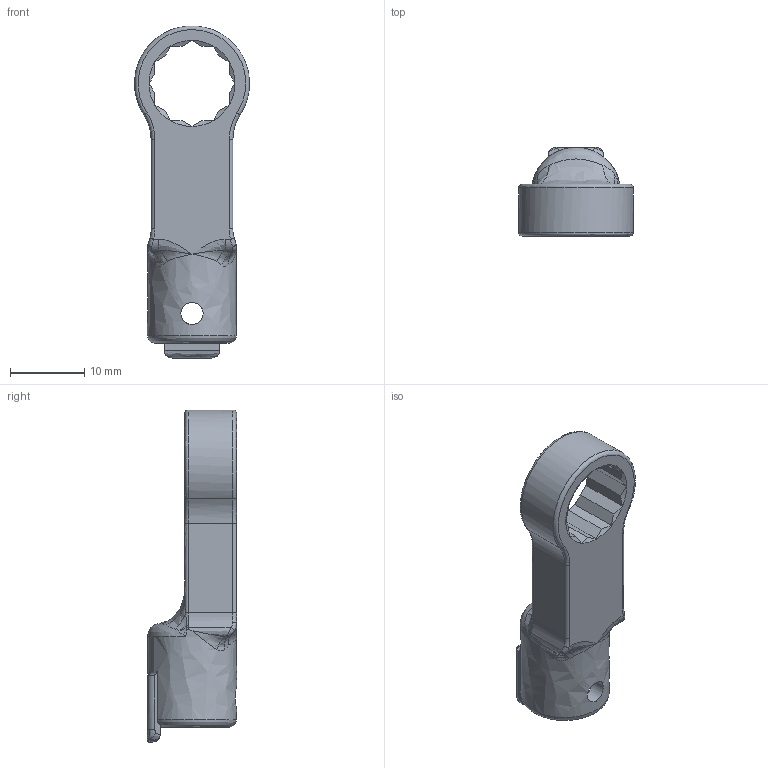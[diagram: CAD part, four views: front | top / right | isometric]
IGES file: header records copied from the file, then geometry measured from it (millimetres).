
Global section: file name: RH8DX10; native system: Autodesk Inventor 2016; preprocessor: unknown; author: Q600; date: 20151110.153816; units: millimetre
Bounding box: 15.5 x 12 x 44.74 mm (x, y, z)
Volume: 2829.2 mm3; surface area: 2157.6 mm2
Topology: 1 solids, 1 shells, 118 faces, 316 edges, 191 vertices
Faces by surface type: bspline 118
